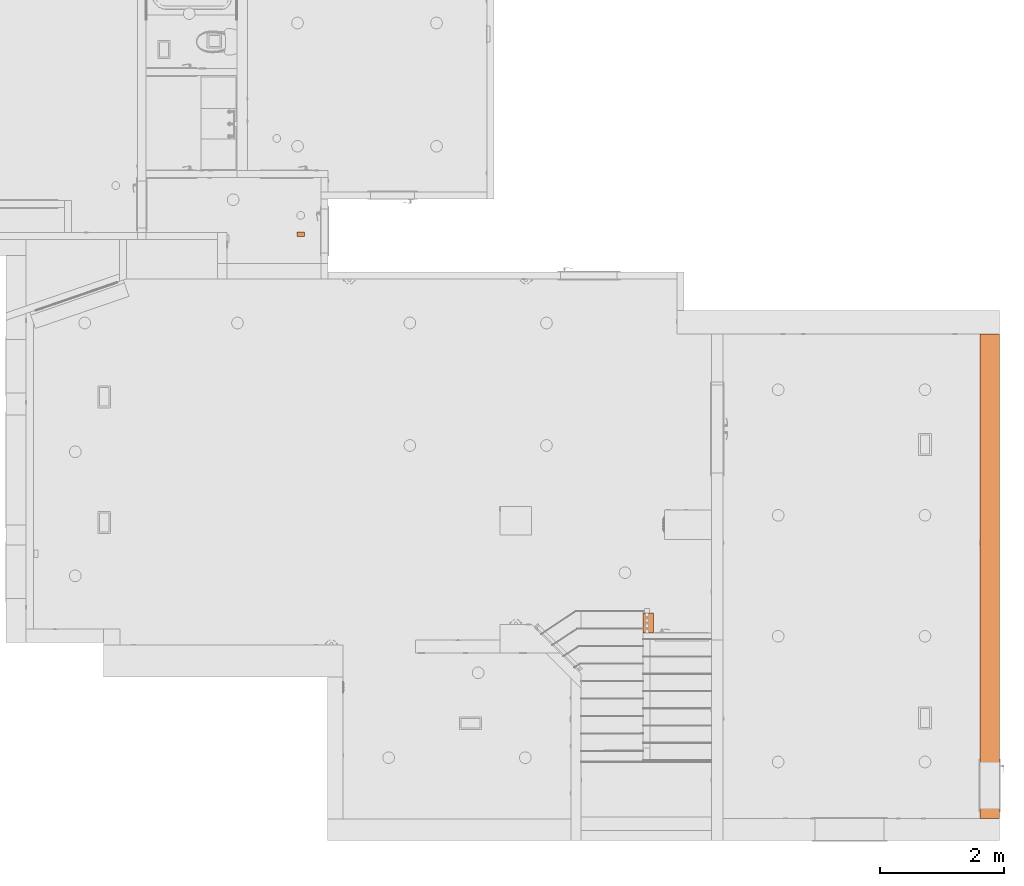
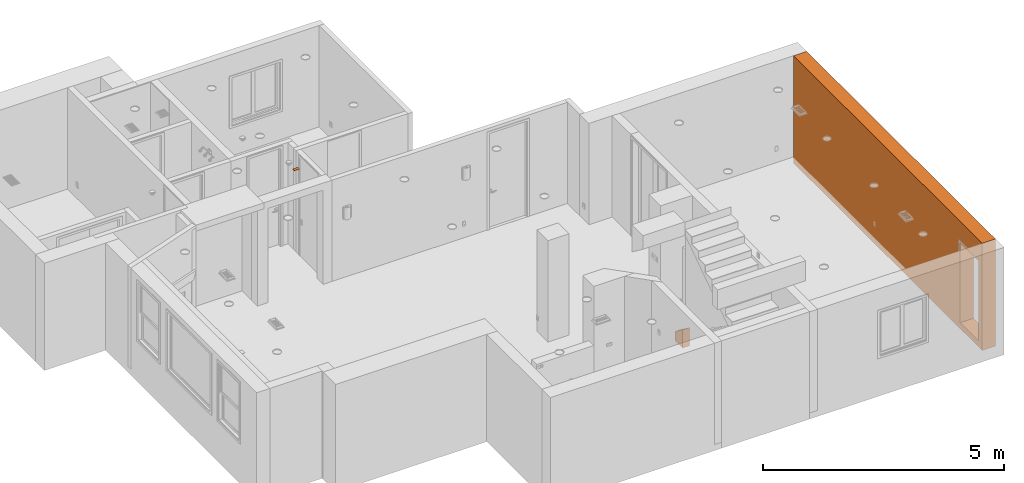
# One storey, part 48 of 48: 3 proxies.
"""IFC2X3 building model written with IfcOpenShell, lengths in inches."""

from ifc_helpers import new_model, entity, si_unit, converted_unit, derived_unit, money_unit, direction, frame, origin_with_axes, place, context, subcontext, project, spatial, faceted_brep, material, type_object, element, save


model = new_model("IFC2X3")

# Units and contexts
model_context = context("Model", 3, precision=0.00039370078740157, world=origin_with_axes(), true_north=direction((0.0, 1.0)))
plan_context = context("Plan", 3, precision=0.00039370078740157, world=origin_with_axes(), true_north=direction((0.0, 1.0)))
body_context = subcontext(model_context, "Body", "Model", "MODEL_VIEW")
ifc_project = project(units=[converted_unit("LENGTHUNIT", "INCH", entity("IfcPositiveLengthMeasure", 0.0254), si_unit("LENGTHUNIT", "METRE"), dimensions=[1, 0, 0, 0, 0, 0, 0]), converted_unit("AREAUNIT", "SQUARE_FOOT", entity("IfcPositiveLengthMeasure", 0.09290304), si_unit("AREAUNIT", "SQUARE_METRE"), dimensions=[2, 0, 0, 0, 0, 0, 0]), si_unit("PLANEANGLEUNIT", "RADIAN"), si_unit("SOLIDANGLEUNIT", "STERADIAN"), money_unit("USD"), converted_unit("TIMEUNIT", "Year", entity("IfcTimeMeasure", 31557600.0), si_unit("TIMEUNIT", "SECOND"), dimensions=[0, 0, 1, 0, 0, 0, 0]), si_unit("MASSUNIT", "GRAM", prefix="KILO"), si_unit("THERMODYNAMICTEMPERATUREUNIT", "DEGREE_CELSIUS"), si_unit("LUMINOUSINTENSITYUNIT", "LUMEN"), si_unit("ENERGYUNIT", "JOULE", prefix="MEGA"), derived_unit("SPECIFICHEATCAPACITYUNIT", [(si_unit("ENERGYUNIT", "JOULE"), 1), (si_unit("MASSUNIT", "GRAM", prefix="KILO"), -1), (si_unit("THERMODYNAMICTEMPERATUREUNIT", "KELVIN"), -1)])], contexts=[model_context, plan_context])

# Site, building, storey
site_placement = place(None, origin_with_axes())
site = spatial("IfcSite", under=ifc_project, at=site_placement, Name="Site", CompositionType="ELEMENT")
building_placement = place(site_placement, origin_with_axes())
building = spatial("IfcBuilding", under=site, at=building_placement, Name="Building", CompositionType="ELEMENT")
storey_placement = place(building_placement, origin_with_axes())
storey = spatial("IfcBuildingStorey", under=building, at=storey_placement, Name="First Floor", CompositionType="ELEMENT", Elevation=0.0)

# Proxies
ifc_material = material(Name="Generic - Structural")
building_element_proxy_type_1 = type_object("IfcBuildingElementProxyType", Name="Generic - Structural 1/4\"", PredefinedType="NOTDEFINED")
proxy_1_placement = place(storey_placement, frame((-19.49999999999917, 384.4999999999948, 100.9999999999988), z_axis=(0.0, 0.0, 1.0), x_axis=(1.0, 0.0, 0.0)))
element("IfcBuildingElementProxy", 1, at=proxy_1_placement, inside=storey, type_object=building_element_proxy_type_1, material=ifc_material, Name="SLA - 002", context=body_context, shape_type="Brep", body=[
    faceted_brep([(0.0, 0.0, 0.0), (0.0, 0.0, -0.2500000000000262), (4.999999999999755, 0.0, -0.2500000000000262), (4.999999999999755, 0.0, 0.0), (0.0, 2.999999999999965, 0.0), (0.0, 2.999999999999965, -0.2500000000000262), (4.999999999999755, 2.999999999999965, -0.2500000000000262), (4.999999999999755, 2.999999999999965, 0.0)], [[[0, 1, 2, 3]], [[4, 5, 1, 0]], [[2, 1, 5, 6]], [[3, 2, 6, 7]], [[4, 0, 3, 7]], [[7, 6, 5, 4]]]),
])
building_element_proxy_type_2 = type_object("IfcBuildingElementProxyType", Name="Generic - Structural", PredefinedType="NOTDEFINED")
proxy_2_placement = place(storey_placement, frame((1547.659737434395, 915.4328676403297, 0.0), z_axis=(0.0, 0.0, 1.0), x_axis=(1.0, 0.0, 0.0)))
element("IfcBuildingElementProxy", 2, at=proxy_2_placement, inside=storey, type_object=building_element_proxy_type_2, material=ifc_material, Name="MO-02", context=body_context, shape_type="Brep", body=[
    faceted_brep([(-1346.659737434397, -770.6884859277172, 0.0), (-1346.659737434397, -783.4328676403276, 0.0), (-1346.659737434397, -783.4328676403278, 18.21285681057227), (-1346.659737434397, -770.6884859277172, 8.998711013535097), (-1340.095195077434, -770.6884859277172, 0.0), (-1340.095195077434, -783.4328676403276, 0.0), (-1340.095195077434, -783.4328676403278, 18.21285681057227), (-1340.095195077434, -770.6884859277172, 8.998711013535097)], [[[0, 1, 2, 3]], [[1, 0, 4, 5]], [[2, 1, 5, 6]], [[3, 2, 6, 7]], [[0, 3, 7, 4]], [[7, 6, 5, 4]]]),
])
building_element_proxy_type_3 = type_object("IfcBuildingElementProxyType", Name="Generic - Structural 12 1/2\"", PredefinedType="NOTDEFINED")
proxy_3_placement = place(storey_placement, frame((415.4999999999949, 14.00000000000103, -5.99999999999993), z_axis=(0.0, 0.0, 1.0), x_axis=(0.0, 1.0, 0.0)))
element("IfcBuildingElementProxy", 3, at=proxy_3_placement, inside=storey, type_object=building_element_proxy_type_3, material=ifc_material, Name="SW - 064", context=body_context, shape_type="Brep", body=[
    faceted_brep([(308.4999999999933, 0.0, 0.0), (0.0, 0.0, 0.0), (0.0, 0.0, 106.9999999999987), (308.4999999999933, 0.0, 106.9999999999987), (5.999999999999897, 0.0, 5.99999999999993), (35.99999999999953, 0.0, 5.99999999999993), (35.99999999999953, 0.0, 85.99999999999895), (5.999999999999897, 0.0, 85.99999999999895), (308.4999999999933, -12.49999999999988, 0.0), (0.0, -12.49999999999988, 0.0), (0.0, -12.49999999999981, 106.9999999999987), (308.4999999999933, -12.49999999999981, 106.9999999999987), (5.999999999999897, -12.49999999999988, 5.99999999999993), (35.99999999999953, -12.49999999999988, 5.99999999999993), (35.99999999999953, -12.49999999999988, 85.99999999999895), (5.999999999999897, -12.49999999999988, 85.99999999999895)], [[[0, 1, 2, 3], [4, 5, 6, 7]], [[8, 9, 1, 0]], [[1, 9, 10, 2]], [[3, 2, 10, 11]], [[0, 3, 11, 8]], [[12, 13, 5, 4]], [[13, 14, 6, 5]], [[14, 15, 7, 6]], [[15, 12, 4, 7]], [[11, 10, 9, 8], [12, 15, 14, 13]]]),
])

save(model, "model.ifc")
